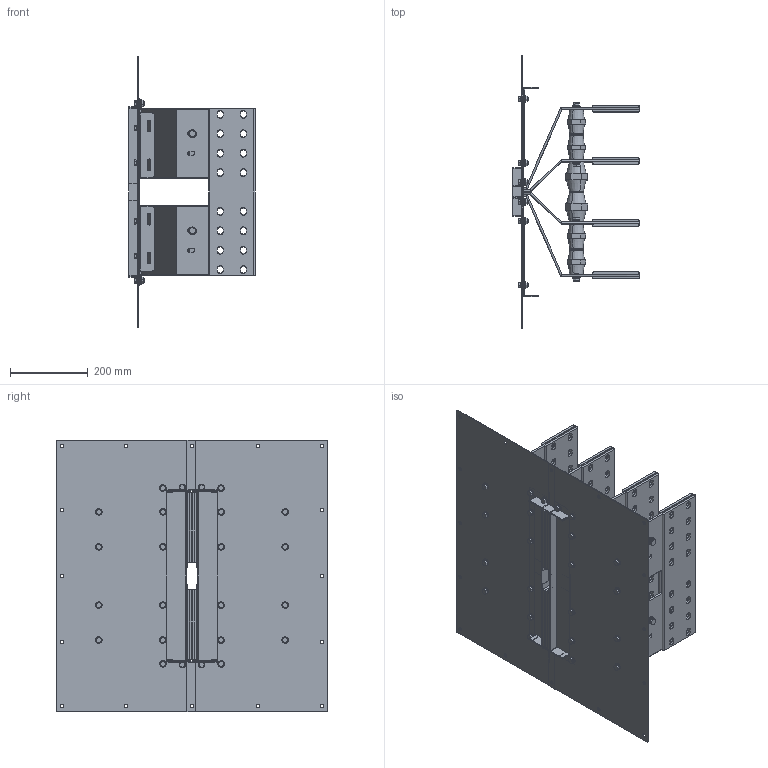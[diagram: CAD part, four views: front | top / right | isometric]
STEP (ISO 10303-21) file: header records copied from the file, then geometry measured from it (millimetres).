
FILE_DESCRIPTION(('CATIA V5 STEP','CAx-IF Rec.Pracs.--- Model Styling and Organization---1.5--- 2016-08-15','CAx-IF Rec.Pracs.---Supplemental Geometry---1.0---2011-11-01','CAx-IF Rec.Pracs.--- Composite Materials ---1.1---2010-07-15'),'2;1');
FILE_NAME('K:\COSCN 2011\32372311_RiduzioneSezioniBarre\03_Studio\__Modelli semplificati\XCP_UB semplificati per studi\XCP-HP_UB_4C_Pe_CRT_Assieme\Cu\XCP-HP_UB_4C_Pe_D_Assieme - 4000A Cu_CRT\XCP-HP_UB_4C_Pe_D_Assieme - 4000A Cu_CRT.stp','2025-05-12T12:04:50+00:00',('Utente Bticino'),('Bticino S.p.A.'),'CATIA Version 5-6 Release 2020 SP5','CATIA V5 STEP AP214 v2','none');
FILE_SCHEMA(('AUTOMOTIVE_DESIGN { 1 0 10303 214 1 1 1 1 }'));
Length unit declared in the file: millimetre
Products named in the file (30): XCP-HP_UB_4C_Pe_D_Assieme - 4000A Cu_CRT; XCP-HP_UB_4C_Pe_D_PaccoBarre_4000A Cu_CRT; XCP-HP_UB_4C_Pe_D_Lamiere_4000A Cu_CRT; XCP-HP_UB_4C_Pe_D_PaccoBarre_4000A Cu_CRT_1; XCP-HP_UB_4C_Pe_D - 4000A Cu_Bandelle parallelo_CRT; 130006; 130184; 00750033 - RONDELLA PIANA 4.8 D.12 UNI 6592 ZB; Ass_M10x25.1; 00740025 M10x25 UNI5739; Rondella spac M10 UNI 1751; 00750005; 130006_1; 00750033 - RONDELLA PIANA 4.8 D.12 UNI 6592 ZB_1; 130184_1; 130006_2; 00750033 - RONDELLA PIANA 4.8 D.12 UNI 6592 ZB_2; 130006_3; 130006_4; 130184_2; 00750033 - RONDELLA PIANA 4.8 D.12 UNI 6592 ZB_3; 130006_5; 00750033 - RONDELLA PIANA 4.8 D.12 UNI 6592 ZB_4; 130184_3; 130006_6; 00750033 - RONDELLA PIANA 4.8 D.12 UNI 6592 ZB_5; 130006_7; Ass Vite+dado M8; Steel hex flanged SCREW M12x16; Steel hex flanged NUT M8
Assembly tree (63 placements, depth 3):
  XCP-HP_UB_4C_Pe_D_Assieme - 4000A Cu_CRT
    XCP-HP_UB_4C_Pe_D_PaccoBarre_4000A Cu_CRT
    XCP-HP_UB_4C_Pe_D_Lamiere_4000A Cu_CRT
    XCP-HP_UB_4C_Pe_D_PaccoBarre_4000A Cu_CRT_1
    XCP-HP_UB_4C_Pe_D - 4000A Cu_Bandelle parallelo_CRT
    130006
    130184
    00750033 - RONDELLA PIANA 4.8 D.12 UNI 6592 ZB
    Ass_M10x25.1  x12
      00740025 M10x25 UNI5739
      Rondella spac M10 UNI 1751
      00750005
    130006_1
    00750033 - RONDELLA PIANA 4.8 D.12 UNI 6592 ZB_1
    130184_1
    130006_2
    00750033 - RONDELLA PIANA 4.8 D.12 UNI 6592 ZB_2
    130006_3
    130006_4
    130184_2
    00750033 - RONDELLA PIANA 4.8 D.12 UNI 6592 ZB_3
    130006_5
    00750033 - RONDELLA PIANA 4.8 D.12 UNI 6592 ZB_4
    130184_3
    130006_6
    00750033 - RONDELLA PIANA 4.8 D.12 UNI 6592 ZB_5
    130006_7
    Ass Vite+dado M8  x24
      Steel hex flanged SCREW M12x16
      Steel hex flanged NUT M8
Bounding box: 325 x 700 x 700 mm (x, y, z)
Volume: 7869122.7 mm3; surface area: 3838565.8 mm2
Topology: 132 solids, 132 shells, 3416 faces, 8492 edges, 5400 vertices
Faces by surface type: plane 1560, cylinder 1120, cone 336, bspline 288, torus 112
Entity records: 57531 total; most frequent: CARTESIAN_POINT 11206, ORIENTED_EDGE 10296, DIRECTION 7310, EDGE_CURVE 5148, VERTEX_POINT 3332, VECTOR 3160, LINE 3160, AXIS2_PLACEMENT_3D 3014
